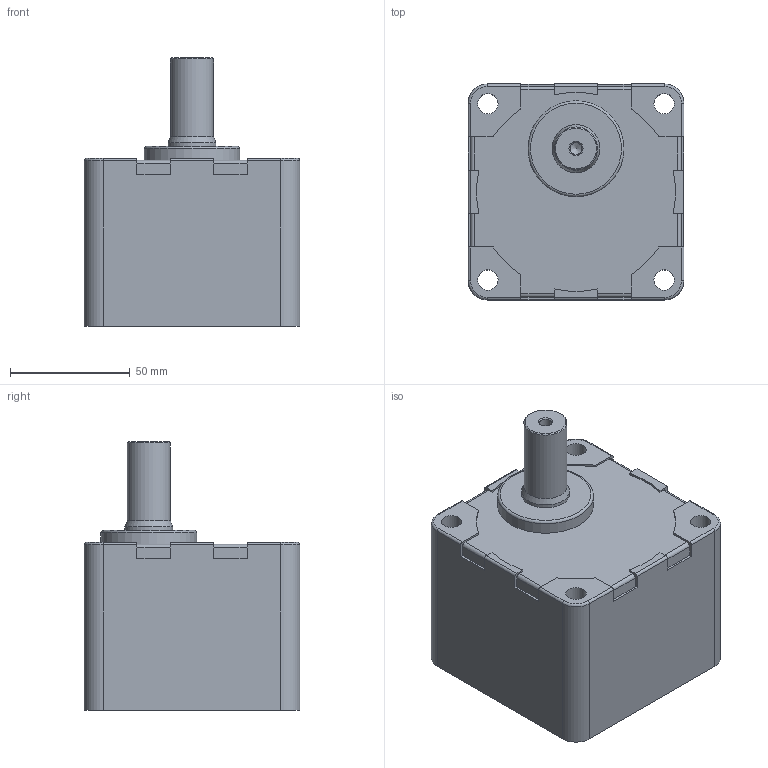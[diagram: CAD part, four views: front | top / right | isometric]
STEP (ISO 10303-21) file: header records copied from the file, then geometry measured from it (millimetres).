
FILE_DESCRIPTION(/* description */ (''),/* implementation_level */ '2;1');
FILE_NAME(/* name */ 'E:\도면작업\2016\0704) 미주향 SG 도면\3D GEAR HEAD\SG9SC50~200.stp',/* time_stamp */ '2016-07-22T14:06:02+09:00',/* author */ ('jy-jung'),/* organization */ (''),/* preprocessor_version */ 'ST-DEVELOPER v15.6',/* originating_system */ 'Autodesk Inventor 2015',/* authorisation */ '');
FILE_SCHEMA (('AUTOMOTIVE_DESIGN { 1 0 10303 214 3 1 1 }'));
Length unit declared in the file: millimetre
Products named in the file (1): SG9SC50~200
Bounding box: 90 x 90 x 112 mm (x, y, z)
Volume: 542625.8 mm3; surface area: 51545.2 mm2
Topology: 1 solids, 1 shells, 102 faces, 273 edges, 177 vertices
Faces by surface type: plane 50, cylinder 41, cone 6, torus 5
Full cylindrical faces by diameter (mm): 4.917 x1, 8.5 x4, 10.5 x1, 18 x1, 20 x1, 40 x1, 83 x1
Entity records: 3125 total; most frequent: DIRECTION 551, CARTESIAN_POINT 532, ORIENTED_EDGE 508, EDGE_CURVE 254, AXIS2_PLACEMENT_3D 194, VERTEX_POINT 175, LINE 163, VECTOR 163
